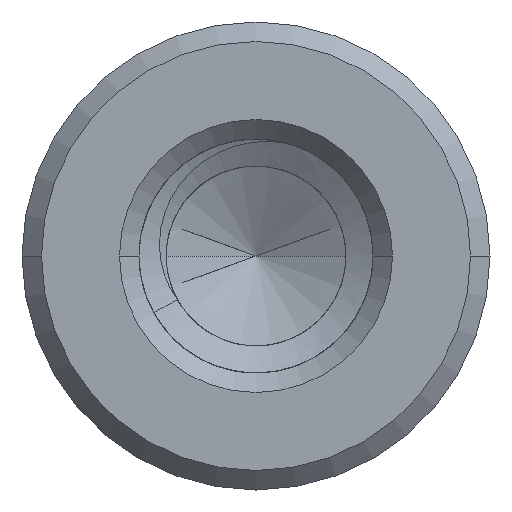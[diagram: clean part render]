
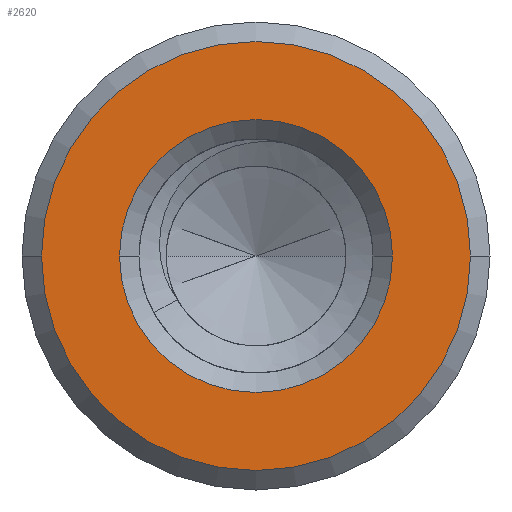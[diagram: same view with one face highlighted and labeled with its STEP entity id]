
A CAD part, front view. The second image highlights one B-rep face of the part: STEP entity #2620.
In plain terms, the highlighted planar face has unit normal (0, -1, 0).
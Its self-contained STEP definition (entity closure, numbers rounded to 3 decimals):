
#1=CARTESIAN_POINT('',(0.,-114.,0.));
#2=DIRECTION('',(0.,1.,0.));
#3=DIRECTION('',(-1.,0.,0.));
#4=AXIS2_PLACEMENT_3D('',#1,#2,#3);
#6=CARTESIAN_POINT('',(0.,-114.,0.));
#7=DIRECTION('',(0.,1.,0.));
#8=DIRECTION('',(1.,0.,0.));
#9=AXIS2_PLACEMENT_3D('',#6,#7,#8);
#11=CARTESIAN_POINT('',(0.,-114.,0.));
#12=DIRECTION('',(0.,-1.,0.));
#13=DIRECTION('',(1.,0.,0.));
#14=AXIS2_PLACEMENT_3D('',#11,#12,#13);
#16=CARTESIAN_POINT('',(0.,-114.,0.));
#17=DIRECTION('',(0.,-1.,0.));
#18=DIRECTION('',(-1.,0.,0.));
#19=AXIS2_PLACEMENT_3D('',#16,#17,#18);
#2579=CARTESIAN_POINT('',(-1.75,-114.,0.));
#2580=CARTESIAN_POINT('',(1.75,-114.,0.));
#2581=VERTEX_POINT('',#2579);
#2582=VERTEX_POINT('',#2580);
#2587=CARTESIAN_POINT('',(2.75,-114.,0.));
#2588=CARTESIAN_POINT('',(-2.75,-114.,0.));
#2589=VERTEX_POINT('',#2587);
#2590=VERTEX_POINT('',#2588);
#2603=CARTESIAN_POINT('',(0.,-114.,0.));
#2604=DIRECTION('',(0.,1.,0.));
#2605=DIRECTION('',(1.,0.,0.));
#2606=AXIS2_PLACEMENT_3D('',#2603,#2604,#2605);
#2607=PLANE('',#2606);
#2609=ORIENTED_EDGE('',*,*,#2608,.F.);
#2611=ORIENTED_EDGE('',*,*,#2610,.F.);
#2612=EDGE_LOOP('',(#2609,#2611));
#2613=FACE_OUTER_BOUND('',#2612,.F.);
#2615=ORIENTED_EDGE('',*,*,#2614,.F.);
#2617=ORIENTED_EDGE('',*,*,#2616,.F.);
#2618=EDGE_LOOP('',(#2615,#2617));
#2619=FACE_BOUND('',#2618,.F.);
#2620=ADVANCED_FACE('',(#2613,#2619),#2607,.F.);
#5=CIRCLE('',#4,1.75);
#10=CIRCLE('',#9,1.75);
#15=CIRCLE('',#14,2.75);
#20=CIRCLE('',#19,2.75);
#2608=EDGE_CURVE('',#2589,#2590,#15,.T.);
#2610=EDGE_CURVE('',#2590,#2589,#20,.T.);
#2614=EDGE_CURVE('',#2581,#2582,#5,.T.);
#2616=EDGE_CURVE('',#2582,#2581,#10,.T.);
